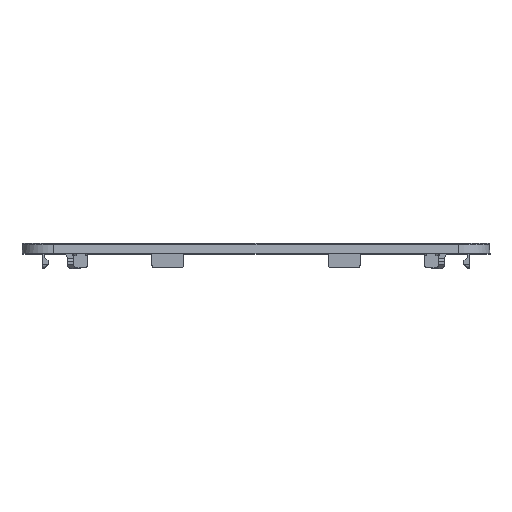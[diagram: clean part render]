
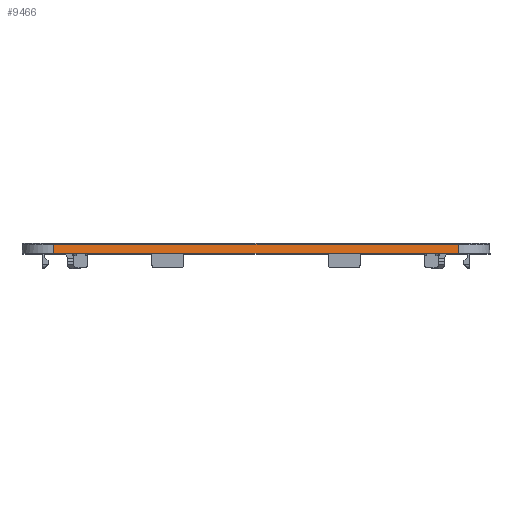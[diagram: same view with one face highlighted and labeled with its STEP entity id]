
A CAD part, top view. The second image highlights one B-rep face of the part: STEP entity #9466.
In plain terms, the highlighted planar face has unit normal (0, 0.087, 0.996).
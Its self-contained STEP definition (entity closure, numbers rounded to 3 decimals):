
#465=DIRECTION('',(1.,0.,0.));
#466=VECTOR('',#465,101.);
#467=CARTESIAN_POINT('',(-50.5,45.6,55.903));
#468=LINE('',#467,#466);
#2289=DIRECTION('',(1.,0.,0.));
#2290=VECTOR('',#2289,101.);
#2291=CARTESIAN_POINT('',(-50.5,47.917,55.701));
#2292=LINE('',#2291,#2290);
#2296=DIRECTION('',(0.,-0.996,0.087));
#2297=VECTOR('',#2296,2.326);
#2298=CARTESIAN_POINT('',(50.5,47.917,55.701));
#2299=LINE('',#2298,#2297);
#2303=DIRECTION('',(0.,0.996,-0.087));
#2304=VECTOR('',#2303,2.326);
#2305=CARTESIAN_POINT('',(-50.5,45.6,55.903));
#2306=LINE('',#2305,#2304);
#7146=CARTESIAN_POINT('',(-50.5,45.6,55.903));
#7148=VERTEX_POINT('',#7146);
#7159=CARTESIAN_POINT('',(50.5,45.6,55.903));
#7161=VERTEX_POINT('',#7159);
#7167=CARTESIAN_POINT('',(-50.5,47.917,55.701));
#7169=VERTEX_POINT('',#7167);
#7172=CARTESIAN_POINT('',(50.5,47.917,55.701));
#7173=VERTEX_POINT('',#7172);
#9454=CARTESIAN_POINT('',(-60.485,45.678,55.897));
#9455=DIRECTION('',(0.,0.087,0.996));
#9456=DIRECTION('',(-1.,0.,0.));
#9457=AXIS2_PLACEMENT_3D('',#9454,#9455,#9456);
#9458=PLANE('',#9457);
#9459=ORIENTED_EDGE('',*,*,#9335,.T.);
#9460=ORIENTED_EDGE('',*,*,#9437,.T.);
#9461=ORIENTED_EDGE('',*,*,#8369,.F.);
#9463=ORIENTED_EDGE('',*,*,#9462,.T.);
#9464=EDGE_LOOP('',(#9459,#9460,#9461,#9463));
#9465=FACE_OUTER_BOUND('',#9464,.F.);
#8369=EDGE_CURVE('',#7148,#7161,#468,.T.);
#9335=EDGE_CURVE('',#7169,#7173,#2292,.T.);
#9437=EDGE_CURVE('',#7173,#7161,#2299,.T.);
#9462=EDGE_CURVE('',#7148,#7169,#2306,.T.);
#9466=ADVANCED_FACE('',(#9465),#9458,.T.);
